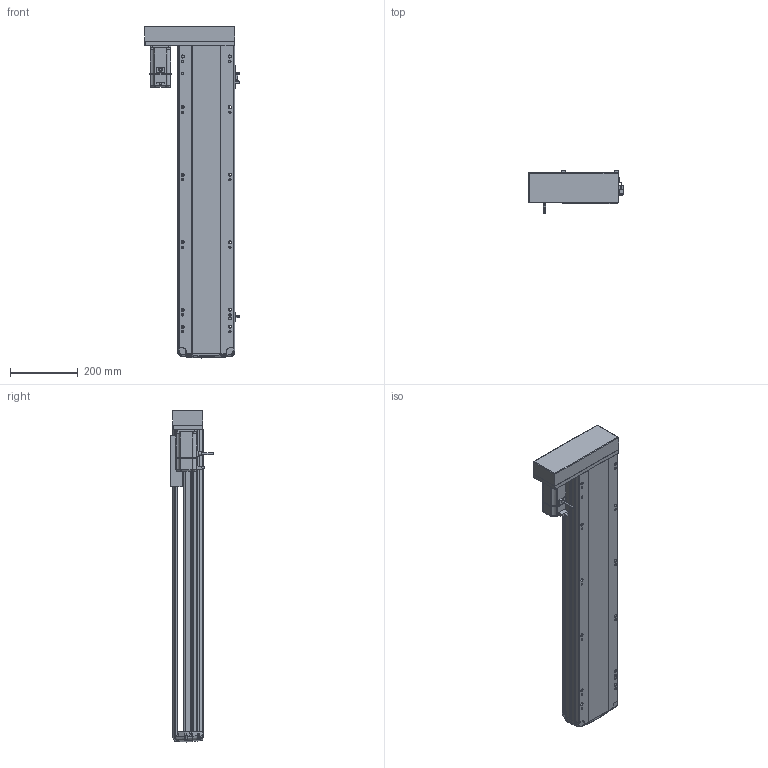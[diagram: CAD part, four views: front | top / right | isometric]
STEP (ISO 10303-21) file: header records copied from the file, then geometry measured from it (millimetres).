
FILE_DESCRIPTION (( 'STEP AP214' ), '1' );
FILE_NAME ('RTH17-XX-700-R-M40-C4.STEP', '2025-10-24T08:51:48', ( '' ), ( '' ), 'SwSTEP 2.0', 'SolidWorks 2018', '' );
FILE_SCHEMA (( 'AUTOMOTIVE_DESIGN' ));
Length unit declared in the file: millimetre
Products named in the file (10): N_RTH17-M-011底座^RTH17-XX-XX-R-M40-C4（方程式）; N_RTH17-L-018盖子^RTH17-XX-XX-R-M40-C4（方程式）; N_RTH-BL-012 感应片(外置)^RTH17-XX-XX-R-M40-C4（方程式）; N_RTH17-L-008-P40电机安装板左转折^RTH17-XX-XX-R-M40-C4（方程式）; N_RTH17-M-007上盖^RTH17-XX-XX-R-M40-C4（方程式）; N_RTH17-GY-001P^RTH17-XX-XX-R-M40-C4（方程式）; N_M40^RTH17-XX-XX-R-M40-C4（方程式）; RTH17-XX-700-R-M40-C4; N_RTH17-E-004丝杆螺母连接座^RTH17-XX-XX-R-M40-C4（方程式）; N_OMRON EE-SX672 換覜ん^RTH17-XX-XX-R-M40-C4ㄗ源最宒ㄘ
Assembly tree (11 placements, depth 2):
  RTH17-XX-700-R-M40-C4
    N_RTH17-M-011底座^RTH17-XX-XX-R-M40-C4（方程式）
    N_RTH17-M-007上盖^RTH17-XX-XX-R-M40-C4（方程式）
    N_M40^RTH17-XX-XX-R-M40-C4（方程式）
    N_OMRON EE-SX672 換覜ん^RTH17-XX-XX-R-M40-C4ㄗ源最宒ㄘ  x3
    N_RTH-BL-012 感应片(外置)^RTH17-XX-XX-R-M40-C4（方程式）
    N_RTH17-L-008-P40电机安装板左转折^RTH17-XX-XX-R-M40-C4（方程式）
    N_RTH17-L-018盖子^RTH17-XX-XX-R-M40-C4（方程式）
    N_RTH17-E-004丝杆螺母连接座^RTH17-XX-XX-R-M40-C4（方程式）
    N_RTH17-GY-001P^RTH17-XX-XX-R-M40-C4（方程式）
Bounding box: 280.5 x 127 x 982.99 mm (x, y, z)
Volume: 8780091 mm3; surface area: 1131520.8 mm2
Topology: 13 solids, 15 shells, 1663 faces, 4629 edges, 3018 vertices
Faces by surface type: plane 835, cylinder 461, bspline 330, cone 28, torus 9
Entity records: 48606 total; most frequent: CARTESIAN_POINT 19635, ORIENTED_EDGE 6282, DIRECTION 5179, EDGE_CURVE 3145, VERTEX_POINT 2054, LINE 1765, VECTOR 1765, AXIS2_PLACEMENT_3D 1707
